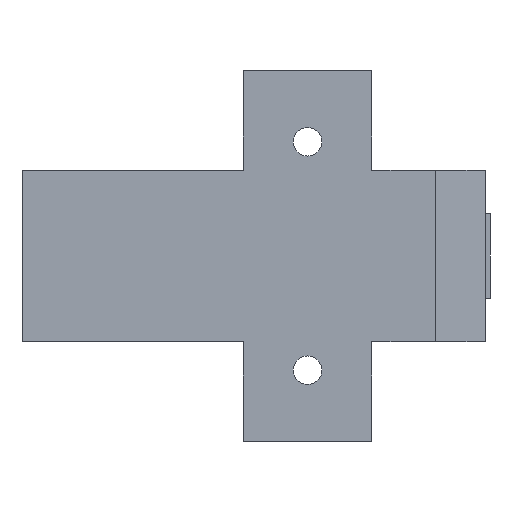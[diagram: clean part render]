
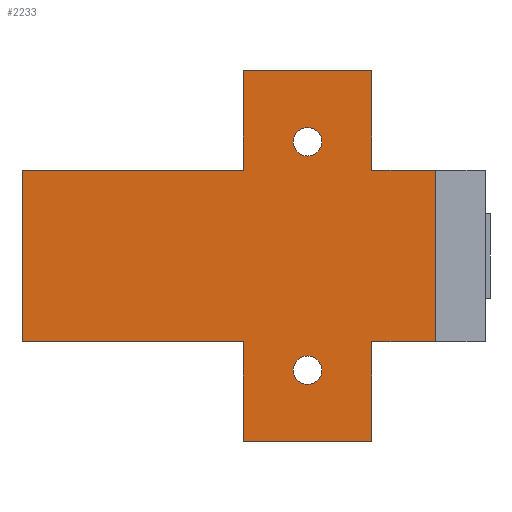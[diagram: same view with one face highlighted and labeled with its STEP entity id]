
A CAD part, left-side view. The second image highlights one B-rep face of the part: STEP entity #2233.
In plain terms, the highlighted planar face has unit normal (-1, 0, 0).
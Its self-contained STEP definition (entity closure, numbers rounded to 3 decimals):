
#122 = EDGE_CURVE ( 'NONE', #3236, #3296, #1084, .T. ) ;
#128 = EDGE_CURVE ( 'NONE', #3171, #3302, #1097, .T. ) ;
#130 = EDGE_CURVE ( 'NONE', #3171, #3287, #1104, .T. ) ;
#131 = EDGE_CURVE ( 'NONE', #3296, #3302, #1114, .T. ) ;
#132 = EDGE_CURVE ( 'NONE', #3161, #3236, #1117, .T. ) ;
#133 = EDGE_CURVE ( 'NONE', #3117, #3161, #1107, .T. ) ;
#134 = EDGE_CURVE ( 'NONE', #3117, #3215, #1110, .T. ) ;
#135 = EDGE_CURVE ( 'NONE', #3230, #3215, #1125, .T. ) ;
#136 = EDGE_CURVE ( 'NONE', #3279, #3230, #1128, .T. ) ;
#137 = EDGE_CURVE ( 'NONE', #3279, #3238, #1118, .T. ) ;
#139 = EDGE_CURVE ( 'NONE', #3238, #3147, #1140, .T. ) ;
#140 = EDGE_CURVE ( 'NONE', #3147, #3287, #1136, .T. ) ;
#142 = EDGE_CURVE ( 'NONE', #3235, #3189, #1824, .T. ) ;
#143 = EDGE_CURVE ( 'NONE', #3152, #3303, #1886, .T. ) ;
#861 = EDGE_LOOP ( 'NONE', ( #2580, #2581 ) ) ;
#866 = EDGE_LOOP ( 'NONE', ( #2568, #2569, #2570, #2571, #2572, #2573, #2574, #2575, #2576, #2577, #2578, #2579 ) ) ;
#868 = EDGE_LOOP ( 'NONE', ( #2582, #2583 ) ) ;
#888 = DIRECTION ( 'NONE',  ( 0., 0., 1. ) ) ;
#890 = CARTESIAN_POINT ( 'NONE',  ( 0., -9., 26. ) ) ;
#891 = DIRECTION ( 'NONE',  ( 0., 1., 0. ) ) ;
#898 = CARTESIAN_POINT ( 'NONE',  ( 0., 0., 16. ) ) ;
#899 = DIRECTION ( 'NONE',  ( 1., 0., 0. ) ) ;
#900 = DIRECTION ( 'NONE',  ( 0., 0., -1. ) ) ;
#903 = CARTESIAN_POINT ( 'NONE',  ( 0., 0., -16. ) ) ;
#904 = DIRECTION ( 'NONE',  ( -1., 0., 0. ) ) ;
#905 = DIRECTION ( 'NONE',  ( 0., 0., 1. ) ) ;
#1084 = LINE ( 'NONE', #1085, #1941 ) ;
#1085 = CARTESIAN_POINT ( 'NONE',  ( 0., -12.007, -12. ) ) ;
#1086 = DIRECTION ( 'NONE',  ( 0., 1., 0. ) ) ;
#1097 = LINE ( 'NONE', #1106, #1860 ) ;
#1104 = LINE ( 'NONE', #1112, #1812 ) ;
#1106 = CARTESIAN_POINT ( 'NONE',  ( 0., -12.007, 12. ) ) ;
#1107 = LINE ( 'NONE', #1121, #2022 ) ;
#1108 = DIRECTION ( 'NONE',  ( 0., 1., 0. ) ) ;
#1110 = LINE ( 'NONE', #1123, #1907 ) ;
#1112 = CARTESIAN_POINT ( 'NONE',  ( 0., 9., -26. ) ) ;
#1113 = DIRECTION ( 'NONE',  ( 0., 0., 1. ) ) ;
#1114 = LINE ( 'NONE', #1115, #2117 ) ;
#1115 = CARTESIAN_POINT ( 'NONE',  ( 0., 40., -12. ) ) ;
#1116 = DIRECTION ( 'NONE',  ( 0., 0., 1. ) ) ;
#1117 = LINE ( 'NONE', #1119, #1896 ) ;
#1118 = LINE ( 'NONE', #1132, #1800 ) ;
#1119 = CARTESIAN_POINT ( 'NONE',  ( 0., 9., -26. ) ) ;
#1120 = DIRECTION ( 'NONE',  ( 0., 0., 1. ) ) ;
#1121 = CARTESIAN_POINT ( 'NONE',  ( 0., -9., -26. ) ) ;
#1122 = DIRECTION ( 'NONE',  ( 0., 1., 0. ) ) ;
#1123 = CARTESIAN_POINT ( 'NONE',  ( 0., -9., -26. ) ) ;
#1124 = DIRECTION ( 'NONE',  ( 0., 0., 1. ) ) ;
#1125 = LINE ( 'NONE', #1126, #2002 ) ;
#1126 = CARTESIAN_POINT ( 'NONE',  ( 0., -12.007, -12. ) ) ;
#1127 = DIRECTION ( 'NONE',  ( 0., 1., 0. ) ) ;
#1128 = LINE ( 'NONE', #1130, #2156 ) ;
#1130 = CARTESIAN_POINT ( 'NONE',  ( 0., -17.9, 30.452 ) ) ;
#1131 = DIRECTION ( 'NONE',  ( 0., 0., -1. ) ) ;
#1132 = CARTESIAN_POINT ( 'NONE',  ( 0., -12.007, 12. ) ) ;
#1134 = DIRECTION ( 'NONE',  ( 0., 1., 0. ) ) ;
#1136 = LINE ( 'NONE', #890, #1849 ) ;
#1140 = LINE ( 'NONE', #1141, #2187 ) ;
#1141 = CARTESIAN_POINT ( 'NONE',  ( 0., -9., -26. ) ) ;
#1276 = CARTESIAN_POINT ( 'NONE',  ( 0., -9., -26. ) ) ;
#1331 = CARTESIAN_POINT ( 'NONE',  ( 0., -9., 26. ) ) ;
#1336 = CARTESIAN_POINT ( 'NONE',  ( 0., 0., -14. ) ) ;
#1345 = CARTESIAN_POINT ( 'NONE',  ( 0., 9., -26. ) ) ;
#1355 = CARTESIAN_POINT ( 'NONE',  ( 0., 9., 12. ) ) ;
#1373 = CARTESIAN_POINT ( 'NONE',  ( 0., 0., 18. ) ) ;
#1399 = CARTESIAN_POINT ( 'NONE',  ( 0., -9., -12. ) ) ;
#1414 = CARTESIAN_POINT ( 'NONE',  ( 0., -17.9, -12. ) ) ;
#1419 = CARTESIAN_POINT ( 'NONE',  ( 0., 0., 14. ) ) ;
#1420 = CARTESIAN_POINT ( 'NONE',  ( 0., 9., -12. ) ) ;
#1422 = CARTESIAN_POINT ( 'NONE',  ( 0., -9., 12. ) ) ;
#1463 = CARTESIAN_POINT ( 'NONE',  ( 0., -17.9, 12. ) ) ;
#1471 = CARTESIAN_POINT ( 'NONE',  ( 0., 9., 26. ) ) ;
#1480 = CARTESIAN_POINT ( 'NONE',  ( 0., 40., -12. ) ) ;
#1486 = CARTESIAN_POINT ( 'NONE',  ( 0., 40., 12. ) ) ;
#1487 = CARTESIAN_POINT ( 'NONE',  ( 0., 0., -18. ) ) ;
#1768 = AXIS2_PLACEMENT_3D ( 'NONE', #2402, #2397, #2406 ) ;
#1800 = VECTOR ( 'NONE', #1134, 1000. ) ;
#1810 = AXIS2_PLACEMENT_3D ( 'NONE', #903, #904, #905 ) ;
#1812 = VECTOR ( 'NONE', #1113, 1000. ) ;
#1824 = CIRCLE ( 'NONE', #2166, 2. ) ;
#1849 = VECTOR ( 'NONE', #891, 1000. ) ;
#1860 = VECTOR ( 'NONE', #1108, 1000. ) ;
#1886 = CIRCLE ( 'NONE', #1810, 2. ) ;
#1896 = VECTOR ( 'NONE', #1120, 1000. ) ;
#1907 = VECTOR ( 'NONE', #1124, 1000. ) ;
#1941 = VECTOR ( 'NONE', #1086, 1000. ) ;
#1969 = CIRCLE ( 'NONE', #2088, 2. ) ;
#2002 = VECTOR ( 'NONE', #1127, 1000. ) ;
#2022 = VECTOR ( 'NONE', #1122, 1000. ) ;
#2088 = AXIS2_PLACEMENT_3D ( 'NONE', #2509, #2510, #2511 ) ;
#2098 = CIRCLE ( 'NONE', #2148, 2. ) ;
#2117 = VECTOR ( 'NONE', #1116, 1000. ) ;
#2148 = AXIS2_PLACEMENT_3D ( 'NONE', #2479, #2480, #2481 ) ;
#2156 = VECTOR ( 'NONE', #1131, 1000. ) ;
#2166 = AXIS2_PLACEMENT_3D ( 'NONE', #898, #899, #900 ) ;
#2187 = VECTOR ( 'NONE', #888, 1000. ) ;
#2233 = ADVANCED_FACE ( 'NONE', ( #2401, #2395, #2404 ), #2405, .F. ) ;
#2248 = EDGE_CURVE ( 'NONE', #3189, #3235, #2098, .T. ) ;
#2256 = EDGE_CURVE ( 'NONE', #3303, #3152, #1969, .T. ) ;
#2395 = FACE_BOUND ( 'NONE', #861, .T. ) ;
#2397 = DIRECTION ( 'NONE',  ( 1., 0., 0. ) ) ;
#2401 = FACE_OUTER_BOUND ( 'NONE', #866, .T. ) ;
#2402 = CARTESIAN_POINT ( 'NONE',  ( 0., -12.007, -12. ) ) ;
#2404 = FACE_BOUND ( 'NONE', #868, .T. ) ;
#2405 = PLANE ( 'NONE',  #1768 ) ;
#2406 = DIRECTION ( 'NONE',  ( 0., 0., -1. ) ) ;
#2479 = CARTESIAN_POINT ( 'NONE',  ( 0., 0., 16. ) ) ;
#2480 = DIRECTION ( 'NONE',  ( 1., 0., 0. ) ) ;
#2481 = DIRECTION ( 'NONE',  ( 0., 0., -1. ) ) ;
#2509 = CARTESIAN_POINT ( 'NONE',  ( 0., 0., -16. ) ) ;
#2510 = DIRECTION ( 'NONE',  ( -1., 0., 0. ) ) ;
#2511 = DIRECTION ( 'NONE',  ( 0., 0., 1. ) ) ;
#2568 = ORIENTED_EDGE ( 'NONE', *, *, #130, .F. ) ;
#2569 = ORIENTED_EDGE ( 'NONE', *, *, #128, .T. ) ;
#2570 = ORIENTED_EDGE ( 'NONE', *, *, #131, .F. ) ;
#2571 = ORIENTED_EDGE ( 'NONE', *, *, #122, .F. ) ;
#2572 = ORIENTED_EDGE ( 'NONE', *, *, #132, .F. ) ;
#2573 = ORIENTED_EDGE ( 'NONE', *, *, #133, .F. ) ;
#2574 = ORIENTED_EDGE ( 'NONE', *, *, #134, .T. ) ;
#2575 = ORIENTED_EDGE ( 'NONE', *, *, #135, .F. ) ;
#2576 = ORIENTED_EDGE ( 'NONE', *, *, #136, .F. ) ;
#2577 = ORIENTED_EDGE ( 'NONE', *, *, #137, .T. ) ;
#2578 = ORIENTED_EDGE ( 'NONE', *, *, #139, .T. ) ;
#2579 = ORIENTED_EDGE ( 'NONE', *, *, #140, .T. ) ;
#2580 = ORIENTED_EDGE ( 'NONE', *, *, #142, .T. ) ;
#2581 = ORIENTED_EDGE ( 'NONE', *, *, #2248, .T. ) ;
#2582 = ORIENTED_EDGE ( 'NONE', *, *, #2256, .F. ) ;
#2583 = ORIENTED_EDGE ( 'NONE', *, *, #143, .F. ) ;
#3117 = VERTEX_POINT ( 'NONE', #1276 ) ;
#3147 = VERTEX_POINT ( 'NONE', #1331 ) ;
#3152 = VERTEX_POINT ( 'NONE', #1336 ) ;
#3161 = VERTEX_POINT ( 'NONE', #1345 ) ;
#3171 = VERTEX_POINT ( 'NONE', #1355 ) ;
#3189 = VERTEX_POINT ( 'NONE', #1373 ) ;
#3215 = VERTEX_POINT ( 'NONE', #1399 ) ;
#3230 = VERTEX_POINT ( 'NONE', #1414 ) ;
#3235 = VERTEX_POINT ( 'NONE', #1419 ) ;
#3236 = VERTEX_POINT ( 'NONE', #1420 ) ;
#3238 = VERTEX_POINT ( 'NONE', #1422 ) ;
#3279 = VERTEX_POINT ( 'NONE', #1463 ) ;
#3287 = VERTEX_POINT ( 'NONE', #1471 ) ;
#3296 = VERTEX_POINT ( 'NONE', #1480 ) ;
#3302 = VERTEX_POINT ( 'NONE', #1486 ) ;
#3303 = VERTEX_POINT ( 'NONE', #1487 ) ;
